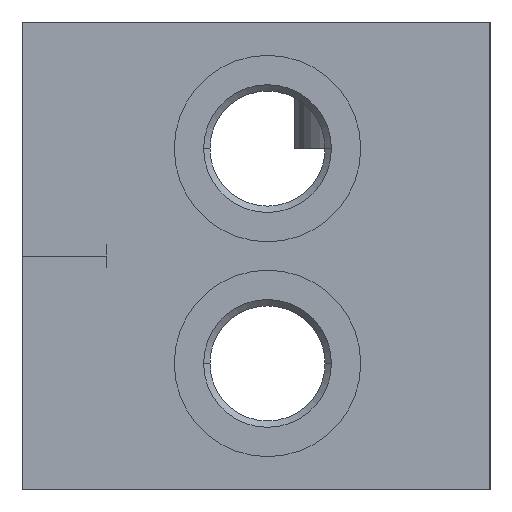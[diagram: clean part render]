
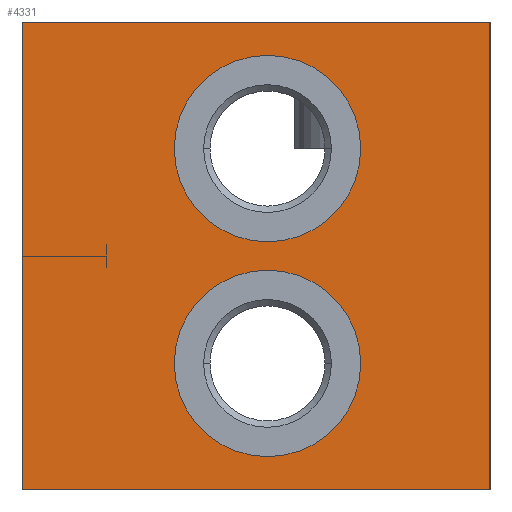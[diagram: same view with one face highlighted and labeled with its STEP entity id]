
A CAD part, left-side view. The second image highlights one B-rep face of the part: STEP entity #4331.
In plain terms, the highlighted planar face has unit normal (-1, 0, 0).
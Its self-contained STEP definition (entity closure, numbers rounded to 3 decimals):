
#25=DIRECTION('',(0.,-1.,0.));
#26=VECTOR('',#25,61.);
#27=CARTESIAN_POINT('',(0.,61.,0.));
#28=LINE('',#27,#26);
#117=DIRECTION('',(0.,0.,-1.));
#118=VECTOR('',#117,61.);
#119=CARTESIAN_POINT('',(0.,0.,0.));
#120=LINE('',#119,#118);
#749=DIRECTION('',(0.,0.,-1.));
#750=VECTOR('',#749,61.);
#751=CARTESIAN_POINT('',(0.,61.,0.));
#752=LINE('',#751,#750);
#753=CARTESIAN_POINT('',(0.,29.,-44.5));
#754=DIRECTION('',(1.,0.,0.));
#755=DIRECTION('',(0.,-1.,0.));
#756=AXIS2_PLACEMENT_3D('',#753,#754,#755);
#758=CARTESIAN_POINT('',(0.,29.,-44.5));
#759=DIRECTION('',(1.,0.,0.));
#760=DIRECTION('',(0.,1.,0.));
#761=AXIS2_PLACEMENT_3D('',#758,#759,#760);
#763=CARTESIAN_POINT('',(0.,29.,-16.5));
#764=DIRECTION('',(1.,0.,0.));
#765=DIRECTION('',(0.,-1.,0.));
#766=AXIS2_PLACEMENT_3D('',#763,#764,#765);
#768=CARTESIAN_POINT('',(0.,29.,-16.5));
#769=DIRECTION('',(1.,0.,0.));
#770=DIRECTION('',(0.,1.,0.));
#771=AXIS2_PLACEMENT_3D('',#768,#769,#770);
#785=DIRECTION('',(0.,-1.,0.));
#786=VECTOR('',#785,61.);
#787=CARTESIAN_POINT('',(0.,61.,-61.));
#788=LINE('',#787,#786);
#3326=CARTESIAN_POINT('',(0.,0.,0.));
#3328=VERTEX_POINT('',#3326);
#3332=CARTESIAN_POINT('',(0.,61.,0.));
#3333=VERTEX_POINT('',#3332);
#3334=CARTESIAN_POINT('',(0.,0.,-61.));
#3336=VERTEX_POINT('',#3334);
#3340=CARTESIAN_POINT('',(0.,61.,-61.));
#3341=VERTEX_POINT('',#3340);
#3354=CARTESIAN_POINT('',(0.,16.85,-44.5));
#3355=CARTESIAN_POINT('',(0.,41.15,-44.5));
#3356=VERTEX_POINT('',#3354);
#3357=VERTEX_POINT('',#3355);
#3370=CARTESIAN_POINT('',(0.,16.85,-16.5));
#3371=CARTESIAN_POINT('',(0.,41.15,-16.5));
#3372=VERTEX_POINT('',#3370);
#3373=VERTEX_POINT('',#3371);
#4307=CARTESIAN_POINT('',(0.,61.,0.));
#4308=DIRECTION('',(-1.,0.,0.));
#4309=DIRECTION('',(0.,-1.,0.));
#4310=AXIS2_PLACEMENT_3D('',#4307,#4308,#4309);
#4311=PLANE('',#4310);
#4312=ORIENTED_EDGE('',*,*,#3997,.T.);
#4313=ORIENTED_EDGE('',*,*,#4064,.T.);
#4315=ORIENTED_EDGE('',*,*,#4314,.F.);
#4316=ORIENTED_EDGE('',*,*,#4143,.F.);
#4317=EDGE_LOOP('',(#4312,#4313,#4315,#4316));
#4318=FACE_OUTER_BOUND('',#4317,.F.);
#4320=ORIENTED_EDGE('',*,*,#4319,.F.);
#4322=ORIENTED_EDGE('',*,*,#4321,.F.);
#4323=EDGE_LOOP('',(#4320,#4322));
#4324=FACE_BOUND('',#4323,.F.);
#4326=ORIENTED_EDGE('',*,*,#4325,.F.);
#4328=ORIENTED_EDGE('',*,*,#4327,.F.);
#4329=EDGE_LOOP('',(#4326,#4328));
#4330=FACE_BOUND('',#4329,.F.);
#757=CIRCLE('',#756,12.15);
#762=CIRCLE('',#761,12.15);
#767=CIRCLE('',#766,12.15);
#772=CIRCLE('',#771,12.15);
#3997=EDGE_CURVE('',#3333,#3328,#28,.T.);
#4064=EDGE_CURVE('',#3328,#3336,#120,.T.);
#4143=EDGE_CURVE('',#3333,#3341,#752,.T.);
#4314=EDGE_CURVE('',#3341,#3336,#788,.T.);
#4319=EDGE_CURVE('',#3356,#3357,#757,.T.);
#4321=EDGE_CURVE('',#3357,#3356,#762,.T.);
#4325=EDGE_CURVE('',#3372,#3373,#767,.T.);
#4327=EDGE_CURVE('',#3373,#3372,#772,.T.);
#4331=ADVANCED_FACE('',(#4318,#4324,#4330),#4311,.T.);
